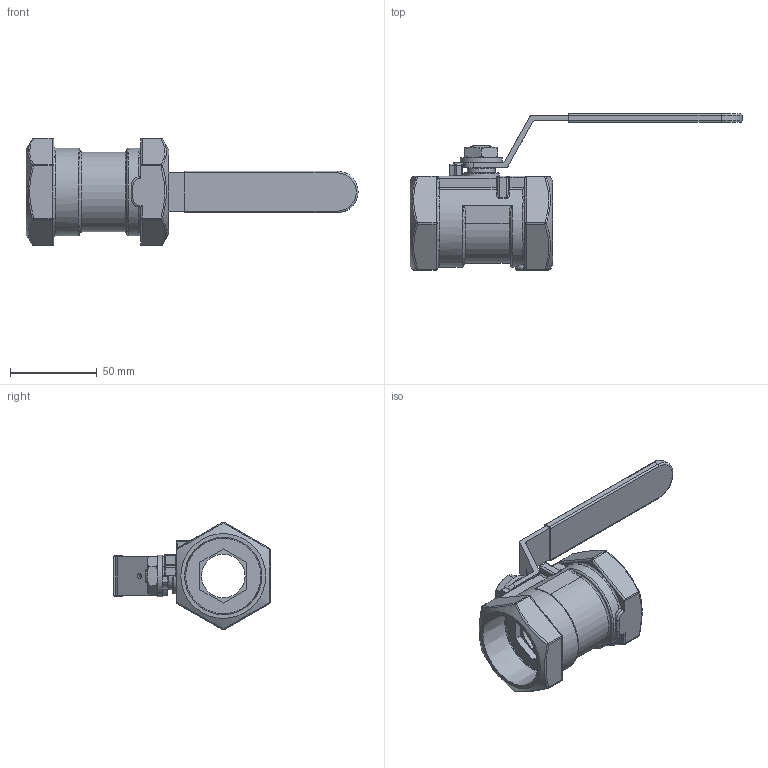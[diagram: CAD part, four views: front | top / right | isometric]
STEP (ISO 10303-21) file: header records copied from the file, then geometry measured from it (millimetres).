
FILE_DESCRIPTION((''),'2;1');
FILE_NAME('F:\Drawings\OneDrive - Avco Valve\Derek\100 Series\Machine Drawings\3D Insertables\100 Series\100-SE-150-LH.stp','2022-10-07T09:21:09',('dKouns'),(''),'Autodesk Inventor 2012','Autodesk Inventor 2012','');
FILE_SCHEMA(('AUTOMOTIVE_DESIGN { 1 0 10303 214 1 1 1 1 }'));
Length unit declared in the file: millimetre
Products named in the file (6): 100-SE-150-LH; 100-SE-150; 100-150-HANDLE; 100-150-SLEEVE; M12 Jam Nut; M12 Washer
Assembly tree (5 placements, depth 2):
  100-SE-150-LH
    100-SE-150
    100-150-HANDLE
    100-150-SLEEVE
    M12 Jam Nut
    M12 Washer
Bounding box: 191 x 90 x 62.04 mm (x, y, z)
Volume: 122064.4 mm3; surface area: 49731.1 mm2
Topology: 5 solids, 5 shells, 661 faces, 1658 edges, 1045 vertices
Faces by surface type: plane 252, bspline 190, cylinder 126, torus 38, sphere 33, cone 22
Full cylindrical faces by diameter (mm): 3 x1, 13 x1, 16 x1, 20.5 x1, 24 x1, 25 x1, 43.256 x2
Entity records: 22812 total; most frequent: CARTESIAN_POINT 8135, ORIENTED_EDGE 3260, DIRECTION 2505, EDGE_CURVE 1630, VERTEX_POINT 1038, AXIS2_PLACEMENT_3D 846, VECTOR 813, LINE 813
